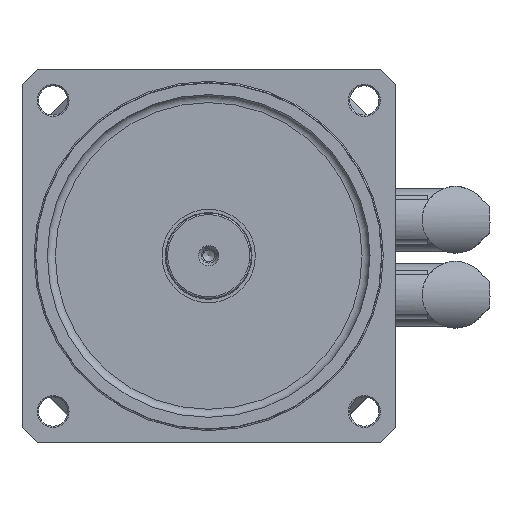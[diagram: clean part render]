
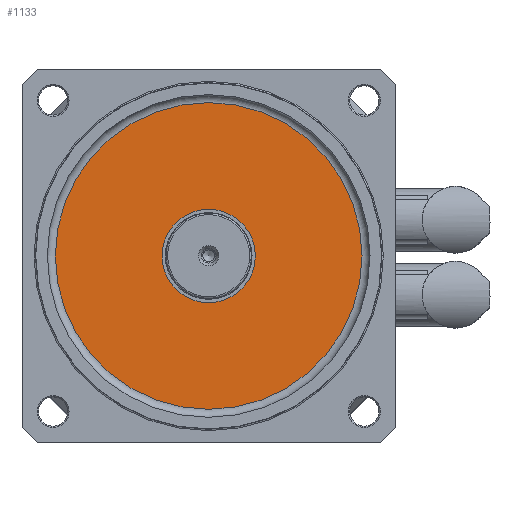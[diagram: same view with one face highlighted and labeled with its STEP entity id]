
A CAD part, top view. The second image highlights one B-rep face of the part: STEP entity #1133.
In plain terms, the highlighted planar face has unit normal (0, 0, 1).
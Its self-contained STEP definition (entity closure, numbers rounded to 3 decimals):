
#328=PLANE('',#4646);
#390=FACE_OUTER_BOUND('',#1653,.T.);
#1133=ADVANCED_FACE('',(#390),#328,.F.);
#1653=EDGE_LOOP('',(#2097));
#2097=ORIENTED_EDGE('',*,*,#3804,.T.);
#3323=VERTEX_POINT('',#6677);
#3804=EDGE_CURVE('',#3323,#3323,#4375,.T.);
#4375=CIRCLE('',#4645,57.5);
#4645=AXIS2_PLACEMENT_3D('',#6676,#5297,#5298);
#4646=AXIS2_PLACEMENT_3D('',#6678,#5299,#5300);
#5297=DIRECTION('',(0.,0.,1.));
#5298=DIRECTION('',(-1.,0.,0.));
#5299=DIRECTION('',(0.,0.,-1.));
#5300=DIRECTION('',(-1.,0.,0.));
#6676=CARTESIAN_POINT('',(0.,0.,35.));
#6677=CARTESIAN_POINT('',(-57.5,0.,35.));
#6678=CARTESIAN_POINT('',(0.,0.,35.));
